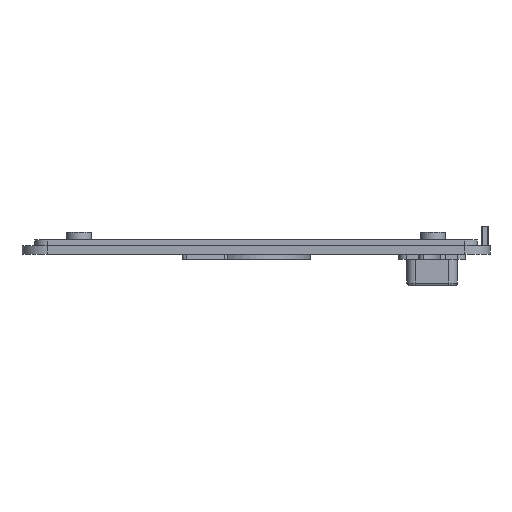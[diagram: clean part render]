
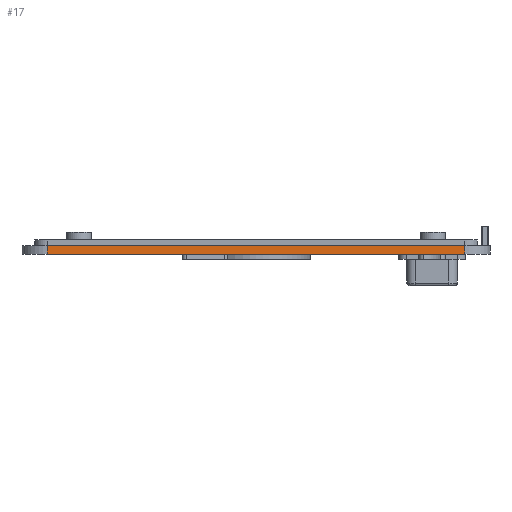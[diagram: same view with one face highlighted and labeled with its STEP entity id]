
A CAD part, left-side view. The second image highlights one B-rep face of the part: STEP entity #17.
In plain terms, the highlighted planar face has unit normal (-1, 0, 0).
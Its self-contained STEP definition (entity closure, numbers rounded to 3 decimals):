
#17 = ADVANCED_FACE('',(#18),#32,.F.);
#18 = FACE_BOUND('',#19,.T.);
#19 = EDGE_LOOP('',(#20,#55,#83,#111));
#20 = ORIENTED_EDGE('',*,*,#21,.F.);
#21 = EDGE_CURVE('',#22,#24,#26,.T.);
#22 = VERTEX_POINT('',#23);
#23 = CARTESIAN_POINT('',(-39.5,-24.9,0.));
#24 = VERTEX_POINT('',#25);
#25 = CARTESIAN_POINT('',(-39.5,24.9,0.));
#26 = SURFACE_CURVE('',#27,(#31,#43),.PCURVE_S1.);
#27 = LINE('',#28,#29);
#28 = CARTESIAN_POINT('',(-39.5,-27.9,0.));
#29 = VECTOR('',#30,1.);
#30 = DIRECTION('',(-0.,1.,0.));
#31 = PCURVE('',#32,#37);
#32 = PLANE('',#33);
#33 = AXIS2_PLACEMENT_3D('',#34,#35,#36);
#34 = CARTESIAN_POINT('',(-39.5,-27.9,1.));
#35 = DIRECTION('',(1.,-0.,-0.));
#36 = DIRECTION('',(0.,0.,1.));
#37 = DEFINITIONAL_REPRESENTATION('',(#38),#42);
#38 = LINE('',#39,#40);
#39 = CARTESIAN_POINT('',(-1.,0.));
#40 = VECTOR('',#41,1.);
#41 = DIRECTION('',(-0.,-1.));
#42 = ( GEOMETRIC_REPRESENTATION_CONTEXT(2) 
PARAMETRIC_REPRESENTATION_CONTEXT() REPRESENTATION_CONTEXT('2D SPACE',''
  ) );
#43 = PCURVE('',#44,#49);
#44 = PLANE('',#45);
#45 = AXIS2_PLACEMENT_3D('',#46,#47,#48);
#46 = CARTESIAN_POINT('',(-39.5,-27.9,0.));
#47 = DIRECTION('',(-0.,-0.,-1.));
#48 = DIRECTION('',(-1.,0.,0.));
#49 = DEFINITIONAL_REPRESENTATION('',(#50),#54);
#50 = LINE('',#51,#52);
#51 = CARTESIAN_POINT('',(-0.,0.));
#52 = VECTOR('',#53,1.);
#53 = DIRECTION('',(-0.,1.));
#54 = ( GEOMETRIC_REPRESENTATION_CONTEXT(2) 
PARAMETRIC_REPRESENTATION_CONTEXT() REPRESENTATION_CONTEXT('2D SPACE',''
  ) );
#55 = ORIENTED_EDGE('',*,*,#56,.F.);
#56 = EDGE_CURVE('',#57,#22,#59,.T.);
#57 = VERTEX_POINT('',#58);
#58 = CARTESIAN_POINT('',(-39.5,-24.9,1.));
#59 = SURFACE_CURVE('',#60,(#64,#71),.PCURVE_S1.);
#60 = LINE('',#61,#62);
#61 = CARTESIAN_POINT('',(-39.5,-24.9,1.));
#62 = VECTOR('',#63,1.);
#63 = DIRECTION('',(-0.,0.,-1.));
#64 = PCURVE('',#32,#65);
#65 = DEFINITIONAL_REPRESENTATION('',(#66),#70);
#66 = LINE('',#67,#68);
#67 = CARTESIAN_POINT('',(-0.,-3.));
#68 = VECTOR('',#69,1.);
#69 = DIRECTION('',(-1.,0.));
#70 = ( GEOMETRIC_REPRESENTATION_CONTEXT(2) 
PARAMETRIC_REPRESENTATION_CONTEXT() REPRESENTATION_CONTEXT('2D SPACE',''
  ) );
#71 = PCURVE('',#72,#77);
#72 = CYLINDRICAL_SURFACE('',#73,3.);
#73 = AXIS2_PLACEMENT_3D('',#74,#75,#76);
#74 = CARTESIAN_POINT('',(-36.5,-24.9,1.));
#75 = DIRECTION('',(-0.,-0.,-1.));
#76 = DIRECTION('',(-1.,-0.,-0.));
#77 = DEFINITIONAL_REPRESENTATION('',(#78),#82);
#78 = LINE('',#79,#80);
#79 = CARTESIAN_POINT('',(-0.,0.));
#80 = VECTOR('',#81,1.);
#81 = DIRECTION('',(-0.,1.));
#82 = ( GEOMETRIC_REPRESENTATION_CONTEXT(2) 
PARAMETRIC_REPRESENTATION_CONTEXT() REPRESENTATION_CONTEXT('2D SPACE',''
  ) );
#83 = ORIENTED_EDGE('',*,*,#84,.T.);
#84 = EDGE_CURVE('',#57,#85,#87,.T.);
#85 = VERTEX_POINT('',#86);
#86 = CARTESIAN_POINT('',(-39.5,24.9,1.));
#87 = SURFACE_CURVE('',#88,(#92,#99),.PCURVE_S1.);
#88 = LINE('',#89,#90);
#89 = CARTESIAN_POINT('',(-39.5,-27.9,1.));
#90 = VECTOR('',#91,1.);
#91 = DIRECTION('',(-0.,1.,0.));
#92 = PCURVE('',#32,#93);
#93 = DEFINITIONAL_REPRESENTATION('',(#94),#98);
#94 = LINE('',#95,#96);
#95 = CARTESIAN_POINT('',(-0.,-0.));
#96 = VECTOR('',#97,1.);
#97 = DIRECTION('',(-0.,-1.));
#98 = ( GEOMETRIC_REPRESENTATION_CONTEXT(2) 
PARAMETRIC_REPRESENTATION_CONTEXT() REPRESENTATION_CONTEXT('2D SPACE',''
  ) );
#99 = PCURVE('',#100,#105);
#100 = PLANE('',#101);
#101 = AXIS2_PLACEMENT_3D('',#102,#103,#104);
#102 = CARTESIAN_POINT('',(-39.5,-27.9,1.));
#103 = DIRECTION('',(0.,-0.,-1.));
#104 = DIRECTION('',(-1.,0.,0.));
#105 = DEFINITIONAL_REPRESENTATION('',(#106),#110);
#106 = LINE('',#107,#108);
#107 = CARTESIAN_POINT('',(-0.,0.));
#108 = VECTOR('',#109,1.);
#109 = DIRECTION('',(-0.,1.));
#110 = ( GEOMETRIC_REPRESENTATION_CONTEXT(2) 
PARAMETRIC_REPRESENTATION_CONTEXT() REPRESENTATION_CONTEXT('2D SPACE',''
  ) );
#111 = ORIENTED_EDGE('',*,*,#112,.F.);
#112 = EDGE_CURVE('',#24,#85,#113,.T.);
#113 = SURFACE_CURVE('',#114,(#118,#125),.PCURVE_S1.);
#114 = LINE('',#115,#116);
#115 = CARTESIAN_POINT('',(-39.5,24.9,0.));
#116 = VECTOR('',#117,1.);
#117 = DIRECTION('',(-0.,-0.,1.));
#118 = PCURVE('',#32,#119);
#119 = DEFINITIONAL_REPRESENTATION('',(#120),#124);
#120 = LINE('',#121,#122);
#121 = CARTESIAN_POINT('',(-1.,-52.8));
#122 = VECTOR('',#123,1.);
#123 = DIRECTION('',(1.,-0.));
#124 = ( GEOMETRIC_REPRESENTATION_CONTEXT(2) 
PARAMETRIC_REPRESENTATION_CONTEXT() REPRESENTATION_CONTEXT('2D SPACE',''
  ) );
#125 = PCURVE('',#126,#131);
#126 = CYLINDRICAL_SURFACE('',#127,3.);
#127 = AXIS2_PLACEMENT_3D('',#128,#129,#130);
#128 = CARTESIAN_POINT('',(-36.5,24.9,1.));
#129 = DIRECTION('',(-0.,-0.,-1.));
#130 = DIRECTION('',(-1.,-0.,-0.));
#131 = DEFINITIONAL_REPRESENTATION('',(#132),#136);
#132 = LINE('',#133,#134);
#133 = CARTESIAN_POINT('',(0.,1.));
#134 = VECTOR('',#135,1.);
#135 = DIRECTION('',(-0.,-1.));
#136 = ( GEOMETRIC_REPRESENTATION_CONTEXT(2) 
PARAMETRIC_REPRESENTATION_CONTEXT() REPRESENTATION_CONTEXT('2D SPACE',''
  ) );
